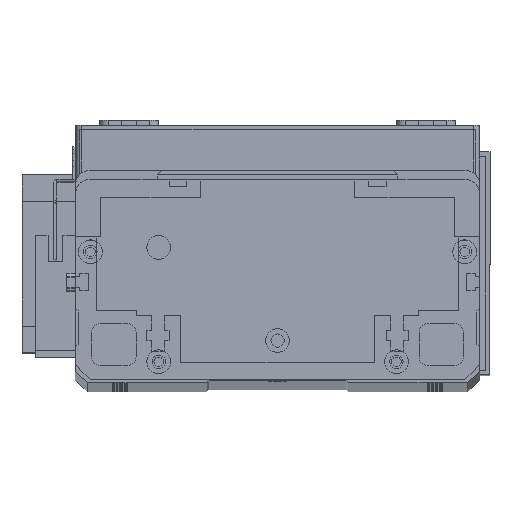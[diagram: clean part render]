
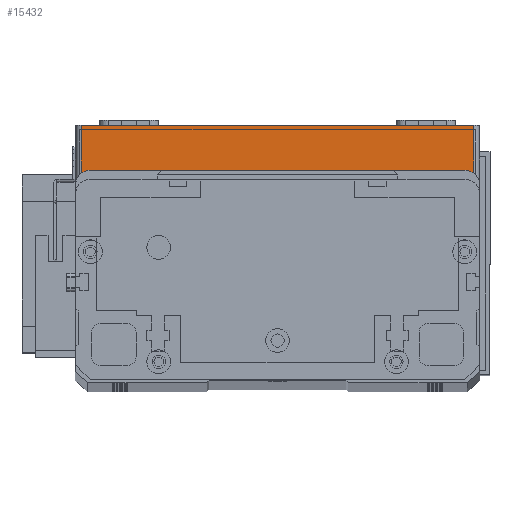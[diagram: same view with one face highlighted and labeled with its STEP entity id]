
A CAD part, top view. The second image highlights one B-rep face of the part: STEP entity #15432.
In plain terms, the highlighted planar face has unit normal (0, 0, 1) as drawn and (0, -1, 0) by its records, which use the part's own axes.
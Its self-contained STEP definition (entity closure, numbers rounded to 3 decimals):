
#896 = CARTESIAN_POINT ( 'NONE',  ( 2., 0., 19.5 ) ) ;
#1103 = VECTOR ( 'NONE', #22447, 1000. ) ;
#2517 = EDGE_CURVE ( 'NONE', #23094, #25999, #23141, .T. ) ;
#3118 = ORIENTED_EDGE ( 'NONE', *, *, #2517, .T. ) ;
#3620 = DIRECTION ( 'NONE',  ( 0., 0., 1. ) ) ;
#3632 = DIRECTION ( 'NONE',  ( 0., 1., 0. ) ) ;
#3662 = CARTESIAN_POINT ( 'NONE',  ( 0., 0., 19.5 ) ) ;
#3700 = PLANE ( 'NONE',  #25273 ) ;
#4100 = ORIENTED_EDGE ( 'NONE', *, *, #17135, .T. ) ;
#4150 = EDGE_LOOP ( 'NONE', ( #4563, #8909, #4100, #3118 ) ) ;
#4529 = FACE_OUTER_BOUND ( 'NONE', #4150, .T. ) ;
#4563 = ORIENTED_EDGE ( 'NONE', *, *, #22365, .F. ) ;
#5079 = VERTEX_POINT ( 'NONE', #896 ) ;
#5701 = CARTESIAN_POINT ( 'NONE',  ( 134., 0., 0. ) ) ;
#7005 = LINE ( 'NONE', #21673, #18637 ) ;
#8909 = ORIENTED_EDGE ( 'NONE', *, *, #9308, .T. ) ;
#9308 = EDGE_CURVE ( 'NONE', #5079, #9869, #9443, .T. ) ;
#9387 = DIRECTION ( 'NONE',  ( 0., 0., 1. ) ) ;
#9443 = LINE ( 'NONE', #22306, #1103 ) ;
#9774 = LINE ( 'NONE', #20308, #21431 ) ;
#9869 = VERTEX_POINT ( 'NONE', #24504 ) ;
#12529 = CARTESIAN_POINT ( 'NONE',  ( 134., 0., 19.5 ) ) ;
#14751 = DIRECTION ( 'NONE',  ( 1., 0., 0. ) ) ;
#15432 = ADVANCED_FACE ( 'NONE', ( #4529 ), #3700, .F. ) ;
#16992 = VECTOR ( 'NONE', #9387, 1000. ) ;
#17135 = EDGE_CURVE ( 'NONE', #9869, #23094, #7005, .T. ) ;
#18637 = VECTOR ( 'NONE', #14751, 1000. ) ;
#20308 = CARTESIAN_POINT ( 'NONE',  ( 0., 0., 19.5 ) ) ;
#21431 = VECTOR ( 'NONE', #22606, 1000. ) ;
#21673 = CARTESIAN_POINT ( 'NONE',  ( 0., 0., 0. ) ) ;
#22306 = CARTESIAN_POINT ( 'NONE',  ( 2., 0., 19.5 ) ) ;
#22365 = EDGE_CURVE ( 'NONE', #5079, #25999, #9774, .T. ) ;
#22447 = DIRECTION ( 'NONE',  ( 0., 0., -1. ) ) ;
#22606 = DIRECTION ( 'NONE',  ( 1., 0., 0. ) ) ;
#23027 = CARTESIAN_POINT ( 'NONE',  ( 134., 0., 19.5 ) ) ;
#23094 = VERTEX_POINT ( 'NONE', #5701 ) ;
#23141 = LINE ( 'NONE', #12529, #16992 ) ;
#24504 = CARTESIAN_POINT ( 'NONE',  ( 2., 0., 0. ) ) ;
#25273 = AXIS2_PLACEMENT_3D ( 'NONE', #3662, #3632, #3620 ) ;
#25999 = VERTEX_POINT ( 'NONE', #23027 ) ;
